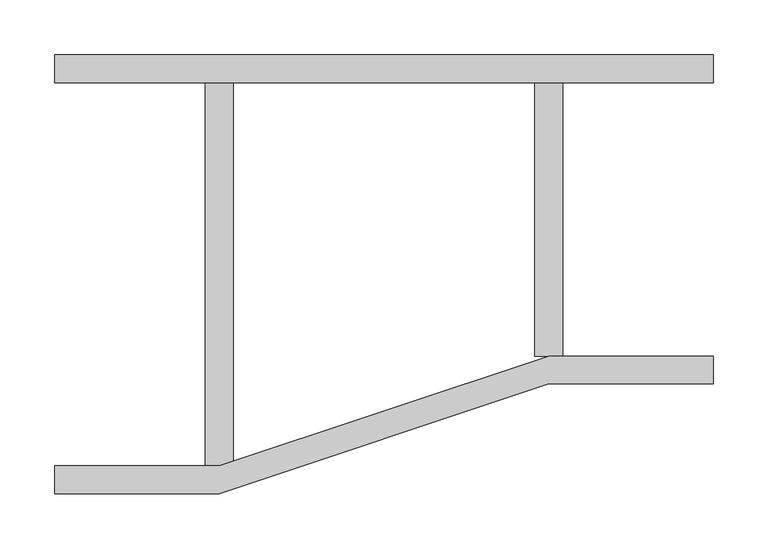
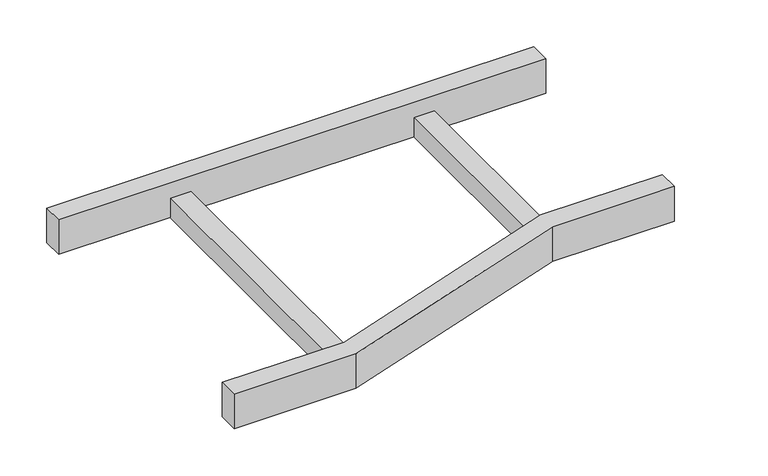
"""IFC4 building model written with IfcOpenShell, lengths in millimetres: cable carrier fitting geometry, BAKS_LD_RED_Straight reducer_RD : RD(S/L/P)C_H45."""

import ifcopenshell
import ifcopenshell.guid

model = None  # the IFC model being written
_history = None  # IfcOwnerHistory: only IFC2X3 demands one
_inside = {}  # id of a spatial element -> (the spatial element, [elements in it])
_under = {}  # id of a project, library or spatial element -> (it, [spatial elements below it])
_declared = {}  # id of a project -> (the project, [libraries it declares])
_typed = {}  # id of a type object -> (the type object, [elements of that type])
_made_of = {}  # id of a material, layer set ... -> (it, [elements and type objects made of it])


def new_model(schema):
    """Start an empty IFC model of exactly this schema.

    Asked for "IFC4X3", IfcOpenShell would pick the latest addendum, in which some entities
    have other attributes; the version numbers below select the first issue.
    IFC2X3 requires an IfcOwnerHistory on every rooted entity: one is made here for all.
    """
    global model, _history
    if schema == "IFC4X3":
        model = ifcopenshell.file(schema_version=(4, 3, 0, 0))
    else:
        model = ifcopenshell.file(schema=schema)
    _inside.clear()
    _under.clear()
    _declared.clear()
    _typed.clear()
    _made_of.clear()
    _history = None
    if model.schema == "IFC2X3":
        org = make("IfcOrganization", Name="unknown")
        user = make(
            "IfcPersonAndOrganization",
            ThePerson=make("IfcPerson", FamilyName="unknown"),
            TheOrganization=org,
        )
        app = make(
            "IfcApplication",
            ApplicationDeveloper=org,
            Version="unknown",
            ApplicationFullName="unknown",
            ApplicationIdentifier="unknown",
        )
        _history = make(
            "IfcOwnerHistory",
            OwningUser=user,
            OwningApplication=app,
            ChangeAction="ADDED",
            CreationDate=0,
        )
    return model


def make(cls, **values):
    """One entity of the class cls with the attributes given. An attribute that is None is left unset."""
    return model.create_entity(
        cls, **{name: value for name, value in values.items() if value is not None}
    )


def rooted(cls, **values):
    """An entity with a GlobalId (a new one), such as an element, a storey or a relation."""
    return make(cls, GlobalId=ifcopenshell.guid.new(), OwnerHistory=_history, **values)


def si_unit(unit_type, name, prefix=None):
    """IfcSIUnit, for example si_unit("LENGTHUNIT", "METRE", prefix="MILLI")."""
    return make("IfcSIUnit", UnitType=unit_type, Prefix=prefix, Name=name)


def assignment(units):
    """IfcUnitAssignment: the units of a project."""
    return None if units is None else make("IfcUnitAssignment", Units=units)


def point(xyz):
    """IfcCartesianPoint."""
    return None if xyz is None else make("IfcCartesianPoint", Coordinates=xyz)


def direction(xyz):
    """IfcDirection."""
    return None if xyz is None else make("IfcDirection", DirectionRatios=xyz)


def frame(location, z_axis=None, x_axis=None):
    """IfcAxis2Placement3D, a coordinate frame: its origin and axes. An axis left out is left unset."""
    return make(
        "IfcAxis2Placement3D",
        Location=point(location),
        Axis=direction(z_axis),
        RefDirection=direction(x_axis),
    )


def origin():
    """The frame at (0, 0, 0) with its axes left unset."""
    return frame((0.0, 0.0, 0.0))


def place(relative_to, where):
    """IfcLocalPlacement: puts the frame where relative to a parent placement (None: the world)."""
    return make(
        "IfcLocalPlacement", PlacementRelTo=relative_to, RelativePlacement=where
    )


def context(
    kind, dimensions, precision=None, world=None, true_north=None, identifier=None
):
    """IfcGeometricRepresentationContext, for example the 3D "Model" context."""
    return make(
        "IfcGeometricRepresentationContext",
        ContextIdentifier=identifier,
        ContextType=kind,
        CoordinateSpaceDimension=dimensions,
        Precision=precision,
        WorldCoordinateSystem=world,
        TrueNorth=true_north,
    )


def project(units=None, contexts=None):
    """IfcProject with its units and contexts."""
    return rooted(
        "IfcProject",
        Name="project",
        RepresentationContexts=contexts,
        UnitsInContext=assignment(units),
    )


def spatial(cls, under=None, at=None, **own):
    """A site, building, storey or space (cls), placed at a placement, below another one or the project."""
    s = rooted(cls, ObjectPlacement=at, **own)
    if under is not None:
        _under.setdefault(under.id(), (under, []))[1].append(s)
    return s


def polyline(points):
    """IfcPolyline through the points."""
    return make("IfcPolyline", Points=[point(p) for p in points])


def outline(outer, holes=None, kind="AREA"):
    """IfcArbitraryClosedProfileDef: a profile drawn as a closed curve; with holes, ...WithVoids."""
    if holes is None:
        return make("IfcArbitraryClosedProfileDef", ProfileType=kind, OuterCurve=outer)
    return make(
        "IfcArbitraryProfileDefWithVoids",
        ProfileType=kind,
        OuterCurve=outer,
        InnerCurves=holes,
    )


def extrude(swept, where, along, depth):
    """IfcExtrudedAreaSolid: the profile swept, set in the frame where, extruded along a direction by depth."""
    return make(
        "IfcExtrudedAreaSolid",
        SweptArea=swept,
        Position=where,
        ExtrudedDirection=direction(along),
        Depth=depth,
    )


def shape(context_of_items, identifier, shape_type, items):
    """IfcShapeRepresentation: the items that make up one representation, for example the "Body"."""
    return make(
        "IfcShapeRepresentation",
        ContextOfItems=context_of_items,
        RepresentationIdentifier=identifier,
        RepresentationType=shape_type,
        Items=items,
    )


def source(mapping_origin, context_of_items, identifier, shape_type, items):
    """IfcRepresentationMap: a shape defined once, which mapped items show again and again."""
    return make(
        "IfcRepresentationMap",
        MappingOrigin=mapping_origin,
        MappedRepresentation=shape(context_of_items, identifier, shape_type, items),
    )


def transform(
    local_origin,
    x_axis=None,
    y_axis=None,
    z_axis=None,
    scale=None,
    scale2=None,
    scale3=None,
    uniform=True,
):
    """IfcCartesianTransformationOperator3D, or its non-uniform kind. x_axis, y_axis, z_axis: its Axis1, 2, 3."""
    if uniform:
        return make(
            "IfcCartesianTransformationOperator3D",
            Axis1=direction(x_axis),
            Axis2=direction(y_axis),
            LocalOrigin=point(local_origin),
            Scale=scale,
            Axis3=direction(z_axis),
        )
    return make(
        "IfcCartesianTransformationOperator3DnonUniform",
        Axis1=direction(x_axis),
        Axis2=direction(y_axis),
        LocalOrigin=point(local_origin),
        Scale=scale,
        Axis3=direction(z_axis),
        Scale2=scale2,
        Scale3=scale3,
    )


def mapped(mapping_source, mapping_target):
    """IfcMappedItem: shows the shape of a source again, moved by a transform."""
    return make(
        "IfcMappedItem", MappingSource=mapping_source, MappingTarget=mapping_target
    )


def made_of(thing, what):
    """Note that an element or type object is made of a material, layer set ...; save() writes the relation."""
    if what is not None:
        _made_of.setdefault(what.id(), (what, []))[1].append(thing)
    return thing


def element(
    cls,
    number,
    at=None,
    inside=None,
    cuts=None,
    type_object=None,
    material=None,
    context=None,
    identifier="Body",
    shape_type=None,
    held_by="IfcProductDefinitionShape",
    body=None,
    shapes=None,
    **own,
):
    """One element of the class cls, such as IfcWall. Its Tag is "e" and its number.

    at: its placement. inside: the storey or other place that contains it. cuts: it is an
    opening in that element (IfcRelVoidsElement). A single representation is given by context,
    identifier, shape_type and body (its items); several are given by shapes. held_by: the class
    of the entity that holds the representations. save() writes the other relations.
    """
    e = rooted(cls, Tag="e%d" % number, ObjectPlacement=at, **own)
    if body is not None:
        shapes = [shape(context, identifier, shape_type, body)]
    if shapes is not None:
        e.Representation = make(held_by, Representations=shapes)
    if inside is not None:
        _inside.setdefault(inside.id(), (inside, []))[1].append(e)
    if cuts is not None:
        rooted(
            "IfcRelVoidsElement", RelatingBuildingElement=cuts, RelatedOpeningElement=e
        )
    if type_object is not None:
        _typed.setdefault(type_object.id(), (type_object, []))[1].append(e)
    return made_of(e, material)


def aggregate(whole, parts):
    """IfcRelAggregates: a whole, such as a stair, and the parts it consists of."""
    return rooted("IfcRelAggregates", RelatingObject=whole, RelatedObjects=parts)


def save(model, path):
    """Write the relations noted so far, then the file.

    IfcRelAggregates (storeys below a building ...), IfcRelContainedInSpatialStructure (elements
    in a storey), IfcRelDefinesByType, IfcRelAssociatesMaterial and IfcRelDeclares: one each for
    every whole, place, type object, material and project.
    """
    for whole, parts in _under.values():
        aggregate(whole, parts)
    for where, things in _inside.values():
        rooted(
            "IfcRelContainedInSpatialStructure",
            RelatedElements=things,
            RelatingStructure=where,
        )
    for kind, things in _typed.values():
        rooted("IfcRelDefinesByType", RelatedObjects=things, RelatingType=kind)
    for what, things in _made_of.values():
        rooted("IfcRelAssociatesMaterial", RelatedObjects=things, RelatingMaterial=what)
    for by, libraries in _declared.values():
        rooted("IfcRelDeclares", RelatingContext=by, RelatedDefinitions=libraries)
    model.write(path)


def cable_carrier_fitting_dba92b4f(model_context):
    return source(origin(), model_context, "Body", "SweptSolid", [
        extrude(outline(polyline([(0.0, -200.0), (0.0, -174.6), (150.0, -174.6), (450.0, -74.6), (600.0, -74.6), (600.0, -100.0), (450.0, -100.0), (150.0, -200.0), (0.0, -200.0)])), frame((0.0, 0.0, -22.5), z_axis=(0.0, 0.0, 1.0), x_axis=(1.0, 0.0, 0.0)), (0.0, 0.0, 1.0), 45.0),
        extrude(outline(polyline([(0.0, 174.6), (0.0, 200.0), (600.0, 200.0), (600.0, 174.6), (0.0, 174.6)])), frame((0.0, 0.0, -22.5), z_axis=(0.0, 0.0, 1.0), x_axis=(1.0, 0.0, 0.0)), (0.0, 0.0, 1.0), 45.0),
        extrude(outline(polyline([(437.3, 174.6), (462.7, 174.6), (462.7, -74.6), (437.3, -74.6), (437.3, 174.6)])), frame((0.0, 0.0, -22.5), z_axis=(0.0, 0.0, 1.0), x_axis=(1.0, 0.0, 0.0)), (0.0, 0.0, 1.0), 25.4),
        extrude(outline(polyline([(137.3, 174.6), (162.7, 174.6), (162.7, -174.6), (137.3, -174.6), (137.3, 174.6)])), frame((0.0, 0.0, -22.5), z_axis=(0.0, 0.0, 1.0), x_axis=(1.0, 0.0, 0.0)), (0.0, 0.0, 1.0), 25.4),
    ])


if __name__ == "__main__":
    model = new_model("IFC4")
    model_context = context("Model", 3, world=origin())
    ifc_project = project(units=[si_unit("LENGTHUNIT", "METRE", prefix="MILLI")], contexts=[model_context])
    site = spatial("IfcSite", under=ifc_project)
    building = spatial("IfcBuilding", under=site)
    placement = place(None, origin())
    cable_carrier_fitting_shape = cable_carrier_fitting_dba92b4f(model_context)
    element("IfcCableCarrierFitting", 1, ObjectType="BAKS_LD_RED_Straight reducer_RD : RD(S/L/P)C_H45", at=placement, inside=building, context=model_context, shape_type="MappedRepresentation", body=[
        mapped(cable_carrier_fitting_shape, transform((0.0, 0.0, 0.0), x_axis=(1.0, 0.0, 0.0), y_axis=(0.0, 1.0, 0.0), z_axis=(0.0, 0.0, 1.0))),
    ])
    save(model, "model.ifc")
